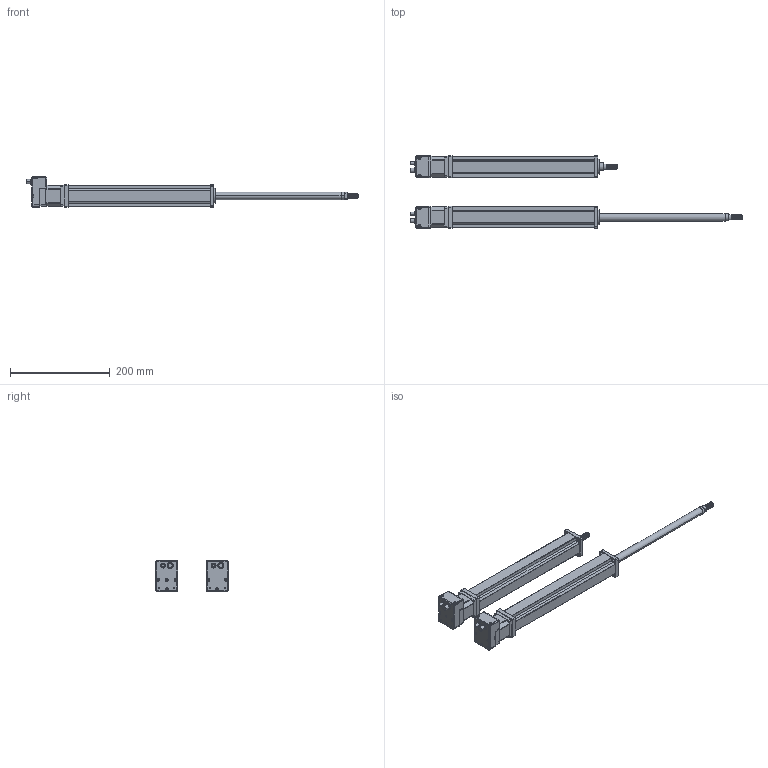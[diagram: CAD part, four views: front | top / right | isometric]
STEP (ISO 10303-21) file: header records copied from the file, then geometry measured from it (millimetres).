
FILE_DESCRIPTION(('STEP AP214'),'1');
FILE_NAME('D:\仕事\図面\SCN5\SCN5-010S\tmp0.STEP',' ',(' '),(' '),'XStep 1.0',' ',' ');
FILE_SCHEMA(('automotive_design'));
Length unit declared in the file: millimetre
Bounding box: 666 x 146.36 x 62 mm (x, y, z)
Volume: 1221945.5 mm3; surface area: 203088.4 mm2
Topology: 41 solids, 41 shells, 1293 faces, 3318 edges, 2110 vertices
Faces by surface type: cylinder 674, plane 421, torus 152, bspline 30, sphere 12, cone 4
Entity records: 126222 total; most frequent: CARTESIAN_POINT 82815, DIRECTION 7152, ORIENTED_EDGE 6612, EDGE_CURVE 3306, AXIS2_PLACEMENT_3D 2757, VERTEX_POINT 2110, LINE 1638, VECTOR 1638
